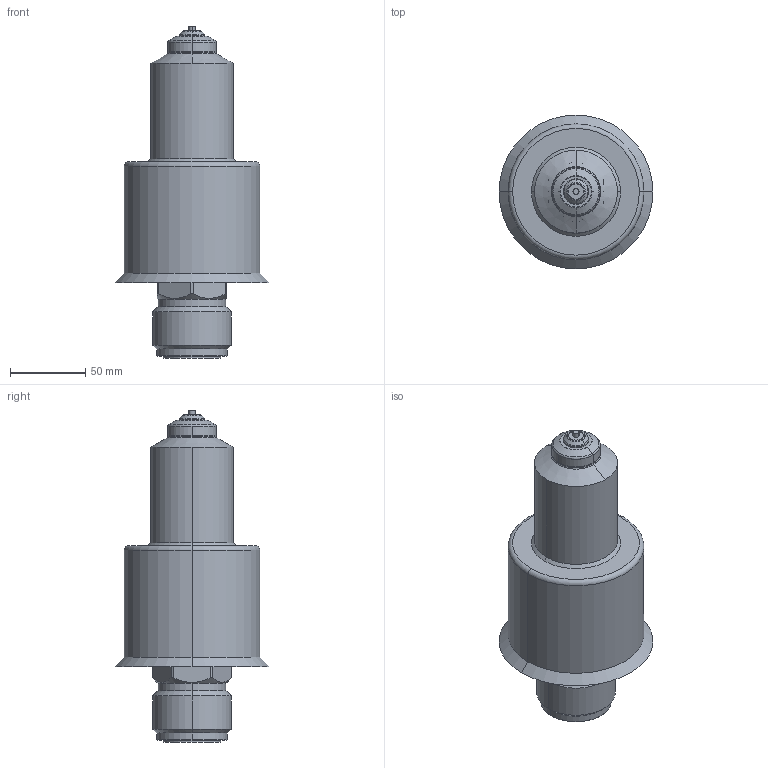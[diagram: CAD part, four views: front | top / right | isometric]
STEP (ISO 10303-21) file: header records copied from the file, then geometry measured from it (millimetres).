
FILE_DESCRIPTION (( 'STEP AP214' ), '1' );
FILE_NAME ('T20_OPEN_161_BAND_RD.STEP', '2016-09-08T18:01:59', ( '' ), ( '' ), 'SwSTEP 2.0', 'SolidWorks 2015', '' );
FILE_SCHEMA (( 'AUTOMOTIVE_DESIGN' ));
Length unit declared in the file: millimetre
Products named in the file (1): T20_OPEN_161_BAND_RD
Bounding box: 102 x 102 x 220 mm (x, y, z)
Volume: 1067319.4 mm3; surface area: 91355.5 mm2
Topology: 2 solids, 2 shells, 280 faces, 691 edges, 426 vertices
Faces by surface type: plane 97, cylinder 96, torus 49, cone 34, sphere 2, bspline 2
Entity records: 12163 total; most frequent: CARTESIAN_POINT 2338, DIRECTION 1476, ORIENTED_EDGE 1378, EDGE_CURVE 689, AXIS2_PLACEMENT_3D 590, VERTEX_POINT 426, CIRCLE 311, EDGE_LOOP 297
